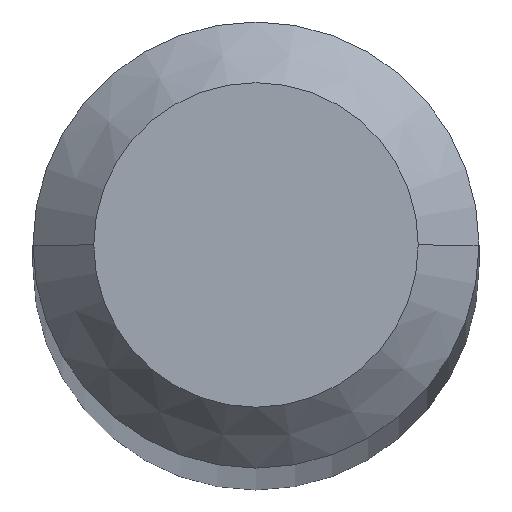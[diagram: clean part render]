
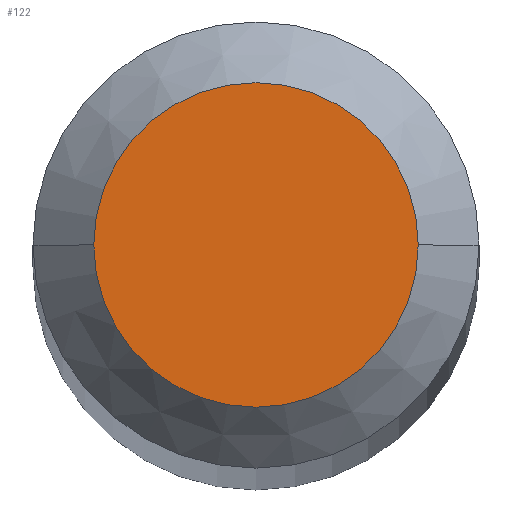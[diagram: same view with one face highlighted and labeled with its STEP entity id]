
A CAD part, top view. The second image highlights one B-rep face of the part: STEP entity #122.
In plain terms, the highlighted planar face has unit normal (0, 0, 1).
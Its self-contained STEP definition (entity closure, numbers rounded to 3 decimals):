
#102=AXIS2_PLACEMENT_3D('Plane Axis2P3D',#99,#100,#101) ;
#106=AXIS2_PLACEMENT_3D('Circle Axis2P3D',#104,#105,$) ;
#115=AXIS2_PLACEMENT_3D('Circle Axis2P3D',#113,#114,$) ;
#99=CARTESIAN_POINT('Axis2P3D Location',(0.,0.,620.)) ;
#104=CARTESIAN_POINT('Axis2P3D Location',(0.,0.,620.)) ;
#108=CARTESIAN_POINT('Vertex',(8.,0.,620.)) ;
#110=CARTESIAN_POINT('Vertex',(-8.,0.,620.)) ;
#113=CARTESIAN_POINT('Axis2P3D Location',(0.,0.,620.)) ;
#100=DIRECTION('Axis2P3D Direction',(0.,0.,1.)) ;
#101=DIRECTION('Axis2P3D XDirection',(1.,0.,0.)) ;
#105=DIRECTION('Axis2P3D Direction',(0.,0.,1.)) ;
#114=DIRECTION('Axis2P3D Direction',(0.,0.,1.)) ;
#119=ORIENTED_EDGE('',*,*,#112,.T.) ;
#120=ORIENTED_EDGE('',*,*,#117,.T.) ;
#122=ADVANCED_FACE('\X2\96F64EF651E04F554F53\X0\',(#121),#103,.T.) ;
#107=CIRCLE('generated circle',#106,8.) ;
#116=CIRCLE('generated circle',#115,8.) ;
#112=EDGE_CURVE('',#109,#111,#107,.T.) ;
#117=EDGE_CURVE('',#111,#109,#116,.T.) ;
#118=EDGE_LOOP('',(#119,#120)) ;
#121=FACE_OUTER_BOUND('',#118,.T.) ;
#103=PLANE('',#102) ;
#109=VERTEX_POINT('',#108) ;
#111=VERTEX_POINT('',#110) ;
